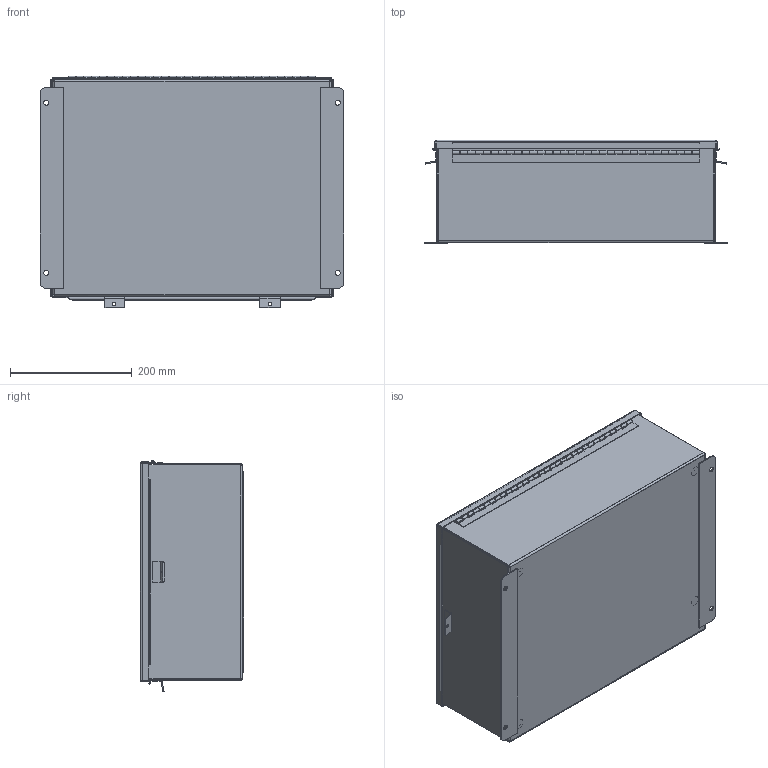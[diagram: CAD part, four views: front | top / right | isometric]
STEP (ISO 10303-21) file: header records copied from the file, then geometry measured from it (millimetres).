
FILE_DESCRIPTION (( 'STEP AP203' ), '1' );
FILE_NAME ('68902_Assembly.STEP', '2018-07-05T13:47:05', ( '' ), ( '' ), 'SwSTEP 2.0', 'SolidWorks 2017', '' );
FILE_SCHEMA (( 'CONFIG_CONTROL_DESIGN' ));
Length unit declared in the file: inch
Products named in the file (2): 68902_Assembly
Bounding box: 498.6 x 170.04 x 379.85 mm (x, y, z)
Surface area: 1235846.3 mm2 (no closed solid volume)
Topology: 0 solids, 49 shells, 511 faces, 1692 edges, 1201 vertices
Faces by surface type: cylinder 258, plane 201, bspline 40, torus 8, cone 4
Entity records: 20707 total; most frequent: CARTESIAN_POINT 5874, DIRECTION 3193, ORIENTED_EDGE 2637, EDGE_CURVE 1692, VERTEX_POINT 1201, AXIS2_PLACEMENT_3D 1108, LINE 977, VECTOR 977
